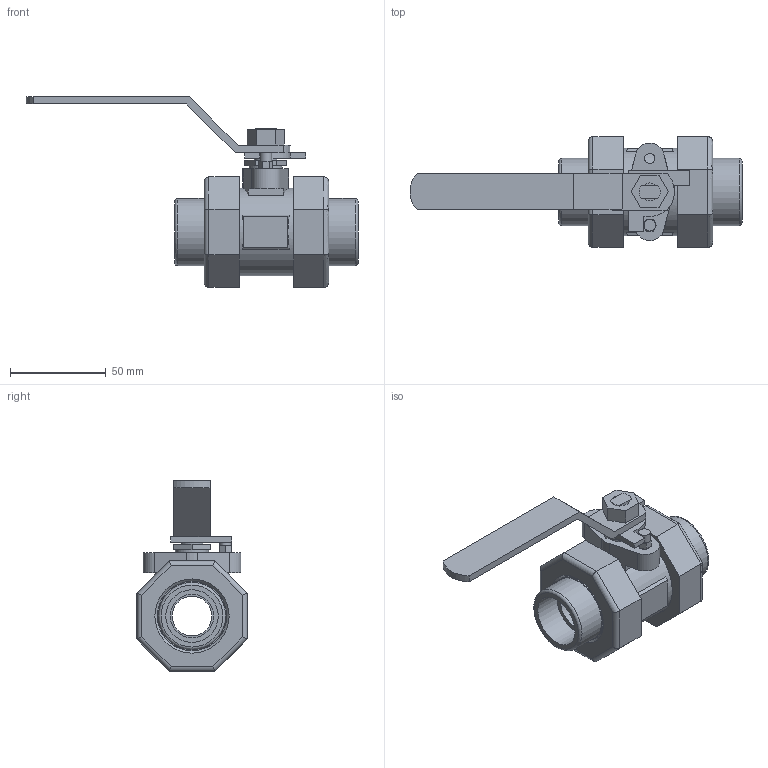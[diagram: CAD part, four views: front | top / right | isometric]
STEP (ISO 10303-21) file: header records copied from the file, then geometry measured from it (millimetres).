
FILE_DESCRIPTION((' '),'2;1');
FILE_NAME('N:\Technical Support\Private\Jomar Valve CAD\Ball Valves\CS and SS\2002N-DUE\.75 S-CS[SS]-2002N-DUE (101-994 [101-984])FusionCopy.stp.step','2017-01-24T13:03:43',(' '),(' '),' ','ACIS',' ');
FILE_SCHEMA(('CONFIG_CONTROL_DESIGN'));
Length unit declared in the file: inch
Products named in the file (15): N:\Technical Support\Private\Jomar Valve CAD\Ball Valves\CS and SS\2002N-DUE\.75 S-CS[SS]-2002N-DUE (101-994 [101-984])FusionCopy.stp.step; Body1; Body2; Body3; Body4; Body5; Body6; Body7; Body8; Body9; Body10; Body11; Body12; Body13; Body14
Assembly tree (14 placements, depth 2):
  N:\Technical Support\Private\Jomar Valve CAD\Ball Valves\CS and SS\2002N-DUE\.75 S-CS[SS]-2002N-DUE (101-994 [101-984])FusionCopy.stp.step
    Body1
    Body2
    Body3
    Body4
    Body5
    Body6
    Body7
    Body8
    Body9
    Body10
    Body11
    Body12
    Body13
    Body14
Bounding box: 173.29 x 57.66 x 99.49 mm (x, y, z)
Volume: 159371.7 mm3; surface area: 62156.9 mm2
Topology: 14 solids, 14 shells, 188 faces, 411 edges, 266 vertices
Faces by surface type: plane 97, bspline 48, cylinder 41, cone 1, torus 1
Full cylindrical faces by diameter (mm): 5.334 x2, 6.02 x1, 6.223 x1, 9.271 x1, 11.938 x1, 17.399 x1, 20.701 x2, 22.733 x1, 27.432 x1, 29.083 x1, 35.052 x1, 35.306 x1, 35.941 x1, 36.195 x1, 38.1 x1, 41.91 x1, 45.847 x1, 47.117 x1, 48.971 x1
Entity records: 7379 total; most frequent: CARTESIAN_POINT 1315, DIRECTION 825, ORIENTED_EDGE 732, EDGE_CURVE 366, AXIS2_PLACEMENT_3D 292, EDGE_LOOP 265, VERTEX_POINT 257, VECTOR 241
